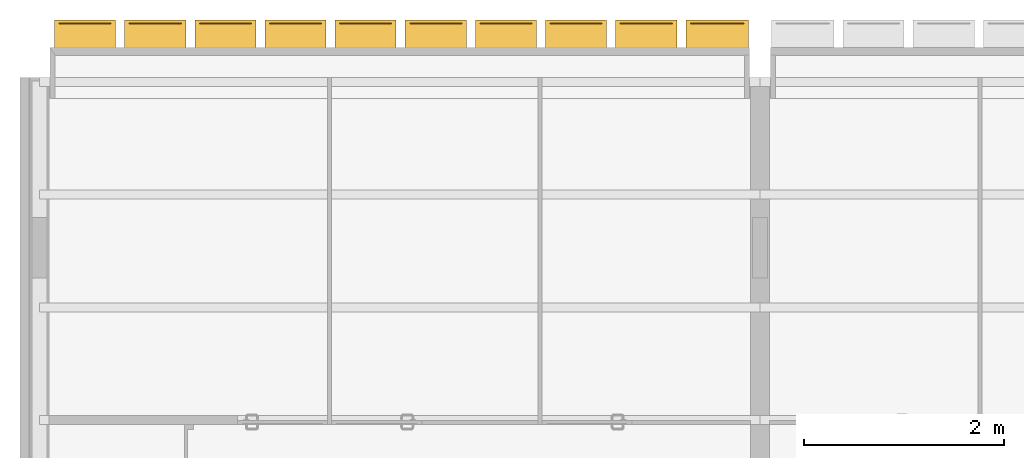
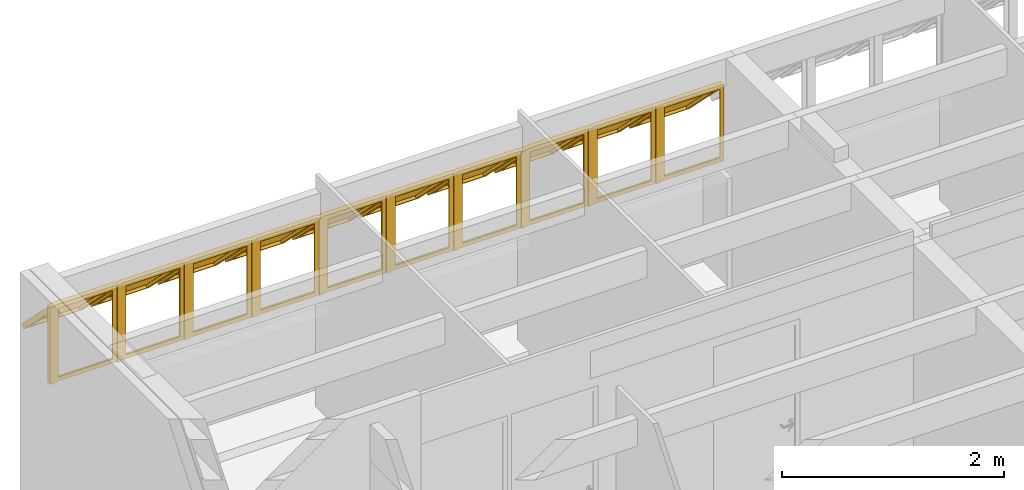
# One storey, part 21 of 22: 1 window.
"""IFC2X3 building model written with IfcOpenShell, lengths in millimetres."""

from ifc_helpers import new_model, si_unit, direction, frame, frame_2d, origin_with_axes, origin_2d_with_axis, place, context, subcontext, project, spatial, polyline, rectangle, outline, extrude, source, transform, mapped, type_object, type_shapes, element, save


model = new_model("IFC2X3")

# Units and contexts
model_context = context("Model", 3, precision=1e-05, world=origin_with_axes(), true_north=direction((0.0, 1.0)))
body_context = subcontext(model_context, "Body", "Model", "MODEL_VIEW")
ifc_project = project(units=[si_unit("LENGTHUNIT", "METRE", prefix="MILLI"), si_unit("AREAUNIT", "SQUARE_METRE"), si_unit("VOLUMEUNIT", "CUBIC_METRE"), si_unit("PLANEANGLEUNIT", "RADIAN"), si_unit("TIMEUNIT", "SECOND"), si_unit("MASSUNIT", "GRAM")], contexts=[model_context])

# Site, building, storey
site_placement = place(None, origin_with_axes())
site = spatial("IfcSite", under=ifc_project, at=site_placement, Name="Site", CompositionType="ELEMENT")
building_placement = place(site_placement, origin_with_axes())
building = spatial("IfcBuilding", under=site, at=building_placement, Name="Construção", CompositionType="COMPLEX")
storey_placement = place(building_placement, frame((0.0, 0.0, 2650.0), z_axis=(0.0, 0.0, 1.0), x_axis=(1.0, 0.0, 0.0)))
storey = spatial("IfcBuildingStorey", under=building, at=storey_placement, Name="Segundo Pavimento", CompositionType="COMPLEX", Elevation=2650.0)

# Window
window_style = type_object("IfcWindowStyle", ConstructionType="NOTDEFINED", OperationType="NOTDEFINED", ParameterTakesPrecedence=False, Sizeable=False)
shared_shape_1 = source(origin_with_axes(), body_context, "Body", "SweptSolid", [
    extrude(outline(polyline([(324.99999695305, -22.5), (-324.99999695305, -22.5), (-279.99999695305, 22.5), (279.99999695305, 22.5), (324.99999695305, -22.5)])), frame((-350.0000005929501, 22.5, -40.0), z_axis=(0.0, 0.0, 1.0), x_axis=(1.0, 0.0, 0.0)), (0.0, 0.0, 1.0), 5.0),
    extrude(outline(polyline([(-22.5, -422.499945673), (-22.5, 422.499945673), (22.5, 377.499945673), (22.5, -377.499945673), (-22.5, -422.499945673)])), frame((-652.499997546, 422.499945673, -40.0), z_axis=(0.0, 0.0, 1.0), x_axis=(1.0, 0.0, 0.0)), (0.0, 0.0, 1.0), 5.0),
    extrude(outline(polyline([(324.99999695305, 22.5), (279.99999695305, -22.5), (-279.9999969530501, -22.5), (-324.9999969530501, 22.5), (324.99999695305, 22.5)])), frame((-350.00000059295, 822.499891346, -40.0), z_axis=(0.0, 0.0, 1.0), x_axis=(1.0, 0.0, 0.0)), (0.0, 0.0, 1.0), 5.0),
    extrude(outline(polyline([(22.5, -422.499945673), (-22.5, -377.499945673), (-22.5, 377.499945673), (22.5, 422.499945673), (22.5, -422.499945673)])), frame((-47.5000036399, 422.499945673, -40.0), z_axis=(0.0, 0.0, 1.0), x_axis=(1.0, 0.0, 0.0)), (0.0, 0.0, 1.0), 5.0),
    extrude(outline(polyline([(324.99999695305, -10.0), (-324.99999695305, -10.0), (-304.99999695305, 10.0), (304.99999695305, 10.0), (324.99999695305, -10.0)])), frame((-350.0000005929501, 10.0, -35.0), z_axis=(0.0, 0.0, 1.0), x_axis=(1.0, 0.0, 0.0)), (0.0, 0.0, 1.0), 50.0),
    extrude(outline(polyline([(-10.0, -422.499945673), (-10.0, 422.499945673), (10.0, 402.499945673), (10.0, -402.499945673), (-10.0, -422.499945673)])), frame((-664.999997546, 422.499945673, -35.0), z_axis=(0.0, 0.0, 1.0), x_axis=(1.0, 0.0, 0.0)), (0.0, 0.0, 1.0), 50.0),
    extrude(outline(polyline([(324.99999695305, 10.0), (304.99999695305, -10.0), (-304.9999969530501, -10.0), (-324.9999969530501, 10.0), (324.99999695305, 10.0)])), frame((-350.00000059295, 834.999891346, -35.0), z_axis=(0.0, 0.0, 1.0), x_axis=(1.0, 0.0, 0.0)), (0.0, 0.0, 1.0), 50.0),
    extrude(outline(polyline([(10.0, -422.499945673), (-10.0, -402.499945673), (-10.0, 402.499945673), (10.0, 422.499945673), (10.0, -422.499945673)])), frame((-35.0000036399, 422.499945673, -35.0), z_axis=(0.0, 0.0, 1.0), x_axis=(1.0, 0.0, 0.0)), (0.0, 0.0, 1.0), 50.0),
    extrude(rectangle(XDim=844.999891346, YDim=19.99999787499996, at=frame_2d((0.0, 0.0), x_axis=(0.0, 1.0))), frame((-684.9999964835, 422.499945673, -10.0), z_axis=(0.0, 0.0, 1.0), x_axis=(1.0, 0.0, 0.0)), (0.0, 0.0, 1.0), 20.0),
    extrude(rectangle(XDim=844.999891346, YDim=19.99999787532, at=frame_2d((0.0, 0.0), x_axis=(0.0, 1.0))), frame((-15.00000470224, 422.499945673, -10.0), z_axis=(0.0, 0.0, 1.0), x_axis=(1.0, 0.0, 0.0)), (0.0, 0.0, 1.0), 20.0),
    extrude(outline(polyline([(-22.5, -357.4999456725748), (-22.50000000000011, 357.499945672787), (22.5, 402.4999456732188), (22.5, -402.4999456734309), (-22.5, -357.4999456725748)])), frame((-67.5000036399, 505.034111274, 264.2551019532), z_axis=(4.714640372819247e-12, 0.7071067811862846, 0.7071067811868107), x_axis=(1.0, 0.0, 0.0)), (0.0, 0.0, 1.0), 55.00000000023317),
    extrude(outline(polyline([(-22.5, -402.4999456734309), (-22.50000000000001, 402.4999456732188), (22.5, 357.499945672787), (22.5, -357.4999456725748), (-22.5, -402.4999456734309)])), frame((-632.499997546, 505.034111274, 264.2551019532), z_axis=(4.714640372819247e-12, 0.7071067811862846, 0.7071067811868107), x_axis=(1.0, 0.0, 0.0)), (0.0, 0.0, 1.0), 55.00000000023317),
    extrude(outline(polyline([(-304.9999969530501, -22.50000000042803), (-259.9999969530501, 22.50000000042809), (259.99999695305, 22.50000000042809), (304.99999695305, -22.50000000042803), (-304.9999969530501, -22.50000000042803)])), frame((-350.0000005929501, 236.333572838, 532.955640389), z_axis=(4.714640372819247e-12, 0.7071067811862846, 0.7071067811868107), x_axis=(1.0, 0.0, 0.0)), (0.0, 0.0, 1.0), 55.00000000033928),
    extrude(outline(polyline([(304.99999695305, 22.500000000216), (259.99999695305, -22.500000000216), (-259.9999969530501, -22.500000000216), (-304.9999969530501, 22.500000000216), (304.99999695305, 22.500000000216)])), frame((-350.00000059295, 773.73464971, -4.4454364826), z_axis=(4.714640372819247e-12, 0.7071067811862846, 0.7071067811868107), x_axis=(1.0, 0.0, 0.0)), (0.0, 0.0, 1.0), 55.00000000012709),
])
shared_shape_2 = source(origin_with_axes(), body_context, "Body", "SweptSolid", [
    extrude(rectangle(XDim=519.9999939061, YDim=16.00000000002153, at=origin_2d_with_axis()), frame((-350.0000005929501, 783.9876980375, 37.627416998), z_axis=(0.0, -0.7071067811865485, 0.7071067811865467), x_axis=(1.0, 0.0, 0.0)), (0.0, 0.0, 1.0), 714.9998913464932),
])
shared_shape_3 = source(origin_with_axes(), body_context, "Body", "MappedRepresentation", [
    mapped(shared_shape_1, transform((5900.0, 25844.9790225, 4005.02054151), x_axis=(-1.0, 0.0, 0.0), y_axis=(0.0, 0.0, 1.0), z_axis=(0.0, 1.0, 0.0), scale=1.0)),
    mapped(shared_shape_2, transform((5900.0, 25844.9790225, 4005.02054151), x_axis=(-1.0, 0.0, 0.0), y_axis=(0.0, 0.0, 1.0), z_axis=(0.0, 1.0, 0.0), scale=1.0)),
])
shared_shape_4 = source(origin_with_axes(), body_context, "Body", "SweptSolid", [
    extrude(outline(polyline([(332.50003730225, -22.5), (-332.50003730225, -22.5), (-287.50003730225, 22.5), (287.50003730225, 22.5), (332.50003730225, -22.5)])), frame((-357.50004190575, 22.5, -40.0), z_axis=(0.0, 0.0, 1.0), x_axis=(1.0, 0.0, 0.0)), (0.0, 0.0, 1.0), 5.0),
    extrude(outline(polyline([(-22.5, -422.499961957), (-22.5, 422.499961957), (22.5, 377.499961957), (22.5, -377.499961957), (-22.5, -422.499961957)])), frame((-667.500079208, 422.499961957, -40.0), z_axis=(0.0, 0.0, 1.0), x_axis=(1.0, 0.0, 0.0)), (0.0, 0.0, 1.0), 5.0),
    extrude(outline(polyline([(332.50003730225, 22.5), (287.50003730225, -22.5), (-287.50003730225, -22.5), (-332.50003730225, 22.5), (332.50003730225, 22.5)])), frame((-357.50004190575, 822.499923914, -40.0), z_axis=(0.0, 0.0, 1.0), x_axis=(1.0, 0.0, 0.0)), (0.0, 0.0, 1.0), 5.0),
    extrude(outline(polyline([(22.5, -422.499961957), (-22.5, -377.499961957), (-22.5, 377.499961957), (22.5, 422.499961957), (22.5, -422.499961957)])), frame((-47.5000046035, 422.499961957, -40.0), z_axis=(0.0, 0.0, 1.0), x_axis=(1.0, 0.0, 0.0)), (0.0, 0.0, 1.0), 5.0),
    extrude(outline(polyline([(332.50003730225, -10.0), (-332.50003730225, -10.0), (-312.50003730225, 10.0), (312.50003730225, 10.0), (332.50003730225, -10.0)])), frame((-357.50004190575, 10.0, -35.0), z_axis=(0.0, 0.0, 1.0), x_axis=(1.0, 0.0, 0.0)), (0.0, 0.0, 1.0), 50.0),
    extrude(outline(polyline([(-10.0, -422.499961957), (-10.0, 422.499961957), (10.0, 402.499961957), (10.0, -402.499961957), (-10.0, -422.499961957)])), frame((-680.000079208, 422.499961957, -35.0), z_axis=(0.0, 0.0, 1.0), x_axis=(1.0, 0.0, 0.0)), (0.0, 0.0, 1.0), 50.0),
    extrude(outline(polyline([(332.50003730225, 10.0), (312.50003730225, -10.0), (-312.50003730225, -10.0), (-332.50003730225, 10.0), (332.50003730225, 10.0)])), frame((-357.50004190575, 834.999923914, -35.0), z_axis=(0.0, 0.0, 1.0), x_axis=(1.0, 0.0, 0.0)), (0.0, 0.0, 1.0), 50.0),
    extrude(outline(polyline([(10.0, -422.499961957), (-10.0, -402.499961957), (-10.0, 402.499961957), (10.0, 422.499961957), (10.0, -422.499961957)])), frame((-35.0000046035, 422.499961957, -35.0), z_axis=(0.0, 0.0, 1.0), x_axis=(1.0, 0.0, 0.0)), (0.0, 0.0, 1.0), 50.0),
    extrude(rectangle(XDim=844.999923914, YDim=19.99999864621, at=frame_2d((0.0, 0.0), x_axis=(0.0, 1.0))), frame((-15.000005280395, 422.499961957, -10.0), z_axis=(0.0, 0.0, 1.0), x_axis=(1.0, 0.0, 0.0)), (0.0, 0.0, 1.0), 20.0),
    extrude(outline(polyline([(-22.50000000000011, -357.4999619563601), (-22.50000000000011, 357.4999619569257), (22.5, 402.4999619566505), (22.5, -402.4999619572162), (-22.50000000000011, -357.4999619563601)])), frame((-67.5000046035, 505.03413232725, 264.2551134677), z_axis=(4.714640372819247e-12, 0.7071067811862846, 0.7071067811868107), x_axis=(1.0, 0.0, 0.0)), (0.0, 0.0, 1.0), 54.99999999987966),
    extrude(outline(polyline([(-22.50000000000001, -402.4999619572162), (-22.50000000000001, 402.4999619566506), (22.49999999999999, 357.4999619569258), (22.5, -357.49996195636), (-22.50000000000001, -402.4999619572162)])), frame((-647.500079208, 505.0341323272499, 264.2551134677), z_axis=(4.714640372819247e-12, 0.7071067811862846, 0.7071067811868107), x_axis=(1.0, 0.0, 0.0)), (0.0, 0.0, 1.0), 54.9999999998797),
    extrude(outline(polyline([(-312.50003730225, -22.50000000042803), (-267.50003730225, 22.50000000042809), (267.50003730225, 22.50000000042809), (312.50003730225, -22.50000000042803), (-312.50003730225, -22.50000000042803)])), frame((-357.50004190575, 236.333582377, 532.955663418), z_axis=(4.714640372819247e-12, 0.7071067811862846, 0.7071067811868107), x_axis=(1.0, 0.0, 0.0)), (0.0, 0.0, 1.0), 54.99999999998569),
    extrude(outline(polyline([(312.50003730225, 22.49999999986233), (267.50003730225, -22.49999999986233), (-267.50003730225, -22.49999999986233), (-312.50003730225, 22.49999999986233), (312.50003730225, 22.49999999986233)])), frame((-357.50004190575, 773.7346822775, -4.4454364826), z_axis=(4.714640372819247e-12, 0.7071067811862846, 0.7071067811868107), x_axis=(1.0, 0.0, 0.0)), (0.0, 0.0, 1.0), 54.99999999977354),
])
shared_shape_5 = source(origin_with_axes(), body_context, "Body", "SweptSolid", [
    extrude(rectangle(XDim=535.0000746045, YDim=16.00000000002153, at=origin_2d_with_axis()), frame((-357.50004190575, 783.9877306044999, 37.627416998), z_axis=(0.0, -0.7071067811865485, 0.7071067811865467), x_axis=(1.0, 0.0, 0.0)), (0.0, 0.0, 1.0), 714.9999239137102),
])
shared_shape_6 = source(origin_with_axes(), body_context, "Body", "MappedRepresentation", [
    mapped(shared_shape_4, transform((6600.0, 25844.9790225, 4005.020541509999), x_axis=(-1.0, 0.0, 0.0), y_axis=(0.0, 0.0, 1.0), z_axis=(0.0, 1.0, 0.0), scale=1.0)),
    mapped(shared_shape_5, transform((6600.0, 25844.9790225, 4005.020541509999), x_axis=(-1.0, 0.0, 0.0), y_axis=(0.0, 0.0, 1.0), z_axis=(0.0, 1.0, 0.0), scale=1.0)),
])
shared_shape_7 = source(origin_with_axes(), body_context, "Body", "SweptSolid", [
    extrude(outline(polyline([(324.99999695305, -22.5), (-324.99999695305, -22.5), (-279.99999695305, 22.5), (279.99999695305, 22.5), (324.99999695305, -22.5)])), frame((-350.0000005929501, 22.5, -40.0), z_axis=(0.0, 0.0, 1.0), x_axis=(1.0, 0.0, 0.0)), (0.0, 0.0, 1.0), 5.0),
    extrude(outline(polyline([(-22.5, -422.499945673), (-22.5, 422.499945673), (22.5, 377.499945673), (22.5, -377.499945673), (-22.5, -422.499945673)])), frame((-652.499997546, 422.499945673, -40.0), z_axis=(0.0, 0.0, 1.0), x_axis=(1.0, 0.0, 0.0)), (0.0, 0.0, 1.0), 5.0),
    extrude(outline(polyline([(324.99999695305, 22.5), (279.99999695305, -22.5), (-279.9999969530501, -22.5), (-324.9999969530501, 22.5), (324.99999695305, 22.5)])), frame((-350.00000059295, 822.499891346, -40.0), z_axis=(0.0, 0.0, 1.0), x_axis=(1.0, 0.0, 0.0)), (0.0, 0.0, 1.0), 5.0),
    extrude(outline(polyline([(22.5, -422.499945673), (-22.5, -377.499945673), (-22.5, 377.499945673), (22.5, 422.499945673), (22.5, -422.499945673)])), frame((-47.5000036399, 422.499945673, -40.0), z_axis=(0.0, 0.0, 1.0), x_axis=(1.0, 0.0, 0.0)), (0.0, 0.0, 1.0), 5.0),
    extrude(outline(polyline([(324.99999695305, -10.0), (-324.99999695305, -10.0), (-304.99999695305, 10.0), (304.99999695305, 10.0), (324.99999695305, -10.0)])), frame((-350.0000005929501, 10.0, -35.0), z_axis=(0.0, 0.0, 1.0), x_axis=(1.0, 0.0, 0.0)), (0.0, 0.0, 1.0), 50.0),
    extrude(outline(polyline([(-10.0, -422.499945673), (-10.0, 422.499945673), (10.0, 402.499945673), (10.0, -402.499945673), (-10.0, -422.499945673)])), frame((-664.999997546, 422.499945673, -35.0), z_axis=(0.0, 0.0, 1.0), x_axis=(1.0, 0.0, 0.0)), (0.0, 0.0, 1.0), 50.0),
    extrude(outline(polyline([(324.99999695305, 10.0), (304.99999695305, -10.0), (-304.9999969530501, -10.0), (-324.9999969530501, 10.0), (324.99999695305, 10.0)])), frame((-350.00000059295, 834.999891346, -35.0), z_axis=(0.0, 0.0, 1.0), x_axis=(1.0, 0.0, 0.0)), (0.0, 0.0, 1.0), 50.0),
    extrude(outline(polyline([(10.0, -422.499945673), (-10.0, -402.499945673), (-10.0, 402.499945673), (10.0, 422.499945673), (10.0, -422.499945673)])), frame((-35.0000036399, 422.499945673, -35.0), z_axis=(0.0, 0.0, 1.0), x_axis=(1.0, 0.0, 0.0)), (0.0, 0.0, 1.0), 50.0),
    extrude(rectangle(XDim=844.999891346, YDim=19.99999787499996, at=frame_2d((0.0, 0.0), x_axis=(0.0, 1.0))), frame((-684.9999964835, 422.499945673, -10.0), z_axis=(0.0, 0.0, 1.0), x_axis=(1.0, 0.0, 0.0)), (0.0, 0.0, 1.0), 20.0),
    extrude(rectangle(XDim=844.999891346, YDim=19.99999787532, at=frame_2d((0.0, 0.0), x_axis=(0.0, 1.0))), frame((-15.00000470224, 422.499945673, -10.0), z_axis=(0.0, 0.0, 1.0), x_axis=(1.0, 0.0, 0.0)), (0.0, 0.0, 1.0), 20.0),
    extrude(outline(polyline([(-22.5, -357.4999456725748), (-22.50000000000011, 357.499945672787), (22.5, 402.4999456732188), (22.5, -402.4999456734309), (-22.5, -357.4999456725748)])), frame((-67.5000036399, 505.034111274, 264.2551019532), z_axis=(4.714640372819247e-12, 0.7071067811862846, 0.7071067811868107), x_axis=(1.0, 0.0, 0.0)), (0.0, 0.0, 1.0), 55.00000000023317),
    extrude(outline(polyline([(-22.5, -402.4999456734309), (-22.50000000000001, 402.4999456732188), (22.5, 357.499945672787), (22.5, -357.4999456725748), (-22.5, -402.4999456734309)])), frame((-632.499997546, 505.034111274, 264.2551019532), z_axis=(4.714640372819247e-12, 0.7071067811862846, 0.7071067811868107), x_axis=(1.0, 0.0, 0.0)), (0.0, 0.0, 1.0), 55.00000000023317),
    extrude(outline(polyline([(-304.9999969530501, -22.50000000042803), (-259.9999969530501, 22.50000000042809), (259.99999695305, 22.50000000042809), (304.99999695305, -22.50000000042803), (-304.9999969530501, -22.50000000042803)])), frame((-350.0000005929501, 236.333572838, 532.955640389), z_axis=(4.714640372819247e-12, 0.7071067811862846, 0.7071067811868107), x_axis=(1.0, 0.0, 0.0)), (0.0, 0.0, 1.0), 55.00000000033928),
    extrude(outline(polyline([(304.99999695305, 22.500000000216), (259.99999695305, -22.500000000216), (-259.9999969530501, -22.500000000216), (-304.9999969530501, 22.500000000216), (304.99999695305, 22.500000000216)])), frame((-350.00000059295, 773.73464971, -4.4454364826), z_axis=(4.714640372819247e-12, 0.7071067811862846, 0.7071067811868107), x_axis=(1.0, 0.0, 0.0)), (0.0, 0.0, 1.0), 55.00000000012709),
])
shared_shape_8 = source(origin_with_axes(), body_context, "Body", "SweptSolid", [
    extrude(rectangle(XDim=519.9999939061, YDim=16.00000000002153, at=origin_2d_with_axis()), frame((-350.0000005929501, 783.9876980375, 37.627416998), z_axis=(0.0, -0.7071067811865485, 0.7071067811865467), x_axis=(1.0, 0.0, 0.0)), (0.0, 0.0, 1.0), 714.9998913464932),
])
shared_shape_9 = source(origin_with_axes(), body_context, "Body", "MappedRepresentation", [
    mapped(shared_shape_7, transform((300.0, 25844.9790225, 4005.02054151), x_axis=(-1.0, 0.0, 0.0), y_axis=(0.0, 0.0, 1.0), z_axis=(0.0, 1.0, 0.0), scale=1.0)),
    mapped(shared_shape_8, transform((300.0, 25844.9790225, 4005.02054151), x_axis=(-1.0, 0.0, 0.0), y_axis=(0.0, 0.0, 1.0), z_axis=(0.0, 1.0, 0.0), scale=1.0)),
])
shared_shape_10 = source(origin_with_axes(), body_context, "Body", "MappedRepresentation", [
    mapped(shared_shape_7, transform((1000.0, 25844.9790225, 4005.02054151), x_axis=(-1.0, 0.0, 0.0), y_axis=(0.0, 0.0, 1.0), z_axis=(0.0, 1.0, 0.0), scale=1.0)),
    mapped(shared_shape_8, transform((1000.0, 25844.9790225, 4005.02054151), x_axis=(-1.0, 0.0, 0.0), y_axis=(0.0, 0.0, 1.0), z_axis=(0.0, 1.0, 0.0), scale=1.0)),
])
shared_shape_11 = source(origin_with_axes(), body_context, "Body", "SweptSolid", [
    extrude(outline(polyline([(324.99999695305, -22.5), (-324.99999695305, -22.5), (-279.99999695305, 22.5), (279.99999695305, 22.5), (324.99999695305, -22.5)])), frame((-350.0000005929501, 22.5, -40.0), z_axis=(0.0, 0.0, 1.0), x_axis=(1.0, 0.0, 0.0)), (0.0, 0.0, 1.0), 5.0),
    extrude(outline(polyline([(-22.5, -422.499945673), (-22.5, 422.499945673), (22.5, 377.499945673), (22.5, -377.499945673), (-22.5, -422.499945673)])), frame((-652.499997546, 422.499945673, -40.0), z_axis=(0.0, 0.0, 1.0), x_axis=(1.0, 0.0, 0.0)), (0.0, 0.0, 1.0), 5.0),
    extrude(outline(polyline([(324.99999695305, 22.5), (279.99999695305, -22.5), (-279.9999969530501, -22.5), (-324.9999969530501, 22.5), (324.99999695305, 22.5)])), frame((-350.00000059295, 822.499891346, -40.0), z_axis=(0.0, 0.0, 1.0), x_axis=(1.0, 0.0, 0.0)), (0.0, 0.0, 1.0), 5.0),
    extrude(outline(polyline([(22.5, -422.499945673), (-22.5, -377.499945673), (-22.5, 377.499945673), (22.5, 422.499945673), (22.5, -422.499945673)])), frame((-47.5000036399, 422.499945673, -40.0), z_axis=(0.0, 0.0, 1.0), x_axis=(1.0, 0.0, 0.0)), (0.0, 0.0, 1.0), 5.0),
    extrude(outline(polyline([(324.99999695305, -10.0), (-324.99999695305, -10.0), (-304.99999695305, 10.0), (304.99999695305, 10.0), (324.99999695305, -10.0)])), frame((-350.0000005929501, 10.0, -35.0), z_axis=(0.0, 0.0, 1.0), x_axis=(1.0, 0.0, 0.0)), (0.0, 0.0, 1.0), 50.0),
    extrude(outline(polyline([(-10.0, -422.499945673), (-10.0, 422.499945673), (10.0, 402.499945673), (10.0, -402.499945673), (-10.0, -422.499945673)])), frame((-664.999997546, 422.499945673, -35.0), z_axis=(0.0, 0.0, 1.0), x_axis=(1.0, 0.0, 0.0)), (0.0, 0.0, 1.0), 50.0),
    extrude(outline(polyline([(324.99999695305, 10.0), (304.99999695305, -10.0), (-304.9999969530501, -10.0), (-324.9999969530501, 10.0), (324.99999695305, 10.0)])), frame((-350.00000059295, 834.999891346, -35.0), z_axis=(0.0, 0.0, 1.0), x_axis=(1.0, 0.0, 0.0)), (0.0, 0.0, 1.0), 50.0),
    extrude(outline(polyline([(10.0, -422.499945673), (-10.0, -402.499945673), (-10.0, 402.499945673), (10.0, 422.499945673), (10.0, -422.499945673)])), frame((-35.0000036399, 422.499945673, -35.0), z_axis=(0.0, 0.0, 1.0), x_axis=(1.0, 0.0, 0.0)), (0.0, 0.0, 1.0), 50.0),
    extrude(rectangle(XDim=844.999891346, YDim=19.99999787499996, at=frame_2d((0.0, 0.0), x_axis=(0.0, 1.0))), frame((-684.9999964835, 422.499945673, -10.0), z_axis=(0.0, 0.0, 1.0), x_axis=(1.0, 0.0, 0.0)), (0.0, 0.0, 1.0), 20.0),
    extrude(rectangle(XDim=844.999891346, YDim=19.99999787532, at=frame_2d((0.0, 0.0), x_axis=(0.0, 1.0))), frame((-15.00000470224, 422.499945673, -10.0), z_axis=(0.0, 0.0, 1.0), x_axis=(1.0, 0.0, 0.0)), (0.0, 0.0, 1.0), 20.0),
    extrude(outline(polyline([(-22.5, -357.4999456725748), (-22.50000000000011, 357.499945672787), (22.5, 402.4999456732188), (22.5, -402.4999456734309), (-22.5, -357.4999456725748)])), frame((-67.5000036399, 505.034111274, 264.2551019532), z_axis=(4.714640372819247e-12, 0.7071067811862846, 0.7071067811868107), x_axis=(1.0, 0.0, 0.0)), (0.0, 0.0, 1.0), 55.00000000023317),
    extrude(outline(polyline([(-22.5, -402.4999456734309), (-22.50000000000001, 402.4999456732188), (22.5, 357.499945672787), (22.5, -357.4999456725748), (-22.5, -402.4999456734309)])), frame((-632.499997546, 505.034111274, 264.2551019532), z_axis=(4.714640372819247e-12, 0.7071067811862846, 0.7071067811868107), x_axis=(1.0, 0.0, 0.0)), (0.0, 0.0, 1.0), 55.00000000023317),
    extrude(outline(polyline([(-304.9999969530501, -22.50000000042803), (-259.9999969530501, 22.50000000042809), (259.99999695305, 22.50000000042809), (304.99999695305, -22.50000000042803), (-304.9999969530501, -22.50000000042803)])), frame((-350.0000005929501, 236.333572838, 532.955640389), z_axis=(4.714640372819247e-12, 0.7071067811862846, 0.7071067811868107), x_axis=(1.0, 0.0, 0.0)), (0.0, 0.0, 1.0), 55.00000000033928),
    extrude(outline(polyline([(304.99999695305, 22.500000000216), (259.99999695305, -22.500000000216), (-259.9999969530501, -22.500000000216), (-304.9999969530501, 22.500000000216), (304.99999695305, 22.500000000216)])), frame((-350.00000059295, 773.73464971, -4.4454364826), z_axis=(4.714640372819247e-12, 0.7071067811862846, 0.7071067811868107), x_axis=(1.0, 0.0, 0.0)), (0.0, 0.0, 1.0), 55.00000000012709),
])
shared_shape_12 = source(origin_with_axes(), body_context, "Body", "SweptSolid", [
    extrude(rectangle(XDim=519.9999939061, YDim=16.00000000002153, at=origin_2d_with_axis()), frame((-350.0000005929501, 783.9876980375, 37.627416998), z_axis=(0.0, -0.7071067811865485, 0.7071067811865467), x_axis=(1.0, 0.0, 0.0)), (0.0, 0.0, 1.0), 714.9998913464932),
])
shared_shape_13 = source(origin_with_axes(), body_context, "Body", "MappedRepresentation", [
    mapped(shared_shape_11, transform((3100.0, 25844.9790225, 4005.02054151), x_axis=(-1.0, 0.0, 0.0), y_axis=(0.0, 0.0, 1.0), z_axis=(0.0, 1.0, 0.0), scale=1.0)),
    mapped(shared_shape_12, transform((3100.0, 25844.9790225, 4005.02054151), x_axis=(-1.0, 0.0, 0.0), y_axis=(0.0, 0.0, 1.0), z_axis=(0.0, 1.0, 0.0), scale=1.0)),
])
shared_shape_14 = source(origin_with_axes(), body_context, "Body", "MappedRepresentation", [
    mapped(shared_shape_7, transform((3800.0, 25844.9790225, 4005.02054151), x_axis=(-1.0, 0.0, 0.0), y_axis=(0.0, 0.0, 1.0), z_axis=(0.0, 1.0, 0.0), scale=1.0)),
    mapped(shared_shape_8, transform((3800.0, 25844.9790225, 4005.02054151), x_axis=(-1.0, 0.0, 0.0), y_axis=(0.0, 0.0, 1.0), z_axis=(0.0, 1.0, 0.0), scale=1.0)),
])
shared_shape_15 = source(origin_with_axes(), body_context, "Body", "MappedRepresentation", [
    mapped(shared_shape_1, transform((5200.0, 25844.9790225, 4005.02054151), x_axis=(-1.0, 0.0, 0.0), y_axis=(0.0, 0.0, 1.0), z_axis=(0.0, 1.0, 0.0), scale=1.0)),
    mapped(shared_shape_2, transform((5200.0, 25844.9790225, 4005.02054151), x_axis=(-1.0, 0.0, 0.0), y_axis=(0.0, 0.0, 1.0), z_axis=(0.0, 1.0, 0.0), scale=1.0)),
])
shared_shape_16 = source(origin_with_axes(), body_context, "Body", "MappedRepresentation", [
    mapped(shared_shape_11, transform((1700.0, 25844.9790225, 4005.02054151), x_axis=(-1.0, 0.0, 0.0), y_axis=(0.0, 0.0, 1.0), z_axis=(0.0, 1.0, 0.0), scale=1.0)),
    mapped(shared_shape_12, transform((1700.0, 25844.9790225, 4005.02054151), x_axis=(-1.0, 0.0, 0.0), y_axis=(0.0, 0.0, 1.0), z_axis=(0.0, 1.0, 0.0), scale=1.0)),
])
shared_shape_17 = source(origin_with_axes(), body_context, "Body", "MappedRepresentation", [
    mapped(shared_shape_1, transform((4500.0, 25844.9790225, 4005.02054151), x_axis=(-1.0, 0.0, 0.0), y_axis=(0.0, 0.0, 1.0), z_axis=(0.0, 1.0, 0.0), scale=1.0)),
    mapped(shared_shape_2, transform((4500.0, 25844.9790225, 4005.02054151), x_axis=(-1.0, 0.0, 0.0), y_axis=(0.0, 0.0, 1.0), z_axis=(0.0, 1.0, 0.0), scale=1.0)),
])
shared_shape_18 = source(origin_with_axes(), body_context, "Body", "MappedRepresentation", [
    mapped(shared_shape_1, transform((2400.0, 25844.9790225, 4005.02054151), x_axis=(-1.0, 0.0, 0.0), y_axis=(0.0, 0.0, 1.0), z_axis=(0.0, 1.0, 0.0), scale=1.0)),
    mapped(shared_shape_2, transform((2400.0, 25844.9790225, 4005.02054151), x_axis=(-1.0, 0.0, 0.0), y_axis=(0.0, 0.0, 1.0), z_axis=(0.0, 1.0, 0.0), scale=1.0)),
])
shared_shape_19 = source(origin_with_axes(), body_context, "Body", "SweptSolid", [
    extrude(rectangle(XDim=844.999928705, YDim=50.0, at=frame_2d((0.0, 0.0), x_axis=(0.0, 1.0))), frame((3490.000079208, 422.4999643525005, -637.7564389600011), z_axis=(0.0, 0.0, 1.0), x_axis=(1.0, 0.0, 0.0)), (0.0, 0.0, 1.0), 50.0),
])
shared_shape_20 = source(origin_with_axes(), body_context, "Body", "SweptSolid", [
    extrude(rectangle(XDim=844.999928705, YDim=50.0, at=frame_2d((0.0, 0.0), x_axis=(0.0, 1.0))), frame((2790.000079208, 422.4999643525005, -637.7564389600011), z_axis=(0.0, 0.0, 1.0), x_axis=(1.0, 0.0, 0.0)), (0.0, 0.0, 1.0), 50.0),
])
shared_shape_21 = source(origin_with_axes(), body_context, "Body", "SweptSolid", [
    extrude(rectangle(XDim=844.999928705, YDim=50.0, at=frame_2d((0.0, 0.0), x_axis=(0.0, 1.0))), frame((2090.000079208, 422.4999643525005, -637.7564389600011), z_axis=(0.0, 0.0, 1.0), x_axis=(1.0, 0.0, 0.0)), (0.0, 0.0, 1.0), 50.0),
])
shared_shape_22 = source(origin_with_axes(), body_context, "Body", "SweptSolid", [
    extrude(rectangle(XDim=844.999928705, YDim=50.0, at=frame_2d((0.0, 0.0), x_axis=(0.0, 1.0))), frame((4890.000079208, 422.4999643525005, -637.7564389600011), z_axis=(0.0, 0.0, 1.0), x_axis=(1.0, 0.0, 0.0)), (0.0, 0.0, 1.0), 50.0),
])
shared_shape_23 = source(origin_with_axes(), body_context, "Body", "SweptSolid", [
    extrude(rectangle(XDim=844.999928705, YDim=50.0, at=frame_2d((0.0, 0.0), x_axis=(0.0, 1.0))), frame((1390.000079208, 422.4999643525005, -637.7564389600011), z_axis=(0.0, 0.0, 1.0), x_axis=(1.0, 0.0, 0.0)), (0.0, 0.0, 1.0), 50.0),
])
shared_shape_24 = source(origin_with_axes(), body_context, "Body", "SweptSolid", [
    extrude(rectangle(XDim=844.999928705, YDim=50.0, at=frame_2d((0.0, 0.0), x_axis=(0.0, 1.0))), frame((690.000079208, 422.4999643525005, -637.7564389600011), z_axis=(0.0, 0.0, 1.0), x_axis=(1.0, 0.0, 0.0)), (0.0, 0.0, 1.0), 50.0),
])
shared_shape_25 = source(origin_with_axes(), body_context, "Body", "SweptSolid", [
    extrude(rectangle(XDim=844.999928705, YDim=50.0, at=frame_2d((0.0, 0.0), x_axis=(0.0, 1.0))), frame((6990.000079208, 422.4999643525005, -637.7564389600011), z_axis=(0.0, 0.0, 1.0), x_axis=(1.0, 0.0, 0.0)), (0.0, 0.0, 1.0), 50.0),
])
shared_shape_26 = source(origin_with_axes(), body_context, "Body", "SweptSolid", [
    extrude(rectangle(XDim=844.999928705, YDim=50.0, at=frame_2d((0.0, 0.0), x_axis=(0.0, 1.0))), frame((4190.000079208, 422.4999643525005, -637.7564389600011), z_axis=(0.0, 0.0, 1.0), x_axis=(1.0, 0.0, 0.0)), (0.0, 0.0, 1.0), 50.0),
])
shared_shape_27 = source(origin_with_axes(), body_context, "Body", "SweptSolid", [
    extrude(rectangle(XDim=844.999928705, YDim=50.0, at=frame_2d((0.0, 0.0), x_axis=(0.0, 1.0))), frame((5590.000079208, 422.4999643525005, -637.7564389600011), z_axis=(0.0, 0.0, 1.0), x_axis=(1.0, 0.0, 0.0)), (0.0, 0.0, 1.0), 50.0),
])
shared_shape_28 = source(origin_with_axes(), body_context, "Body", "SweptSolid", [
    extrude(rectangle(XDim=844.999928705, YDim=50.0, at=frame_2d((0.0, 0.0), x_axis=(0.0, 1.0))), frame((6290.000079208, 422.4999643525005, -637.7564389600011), z_axis=(0.0, 0.0, 1.0), x_axis=(1.0, 0.0, 0.0)), (0.0, 0.0, 1.0), 50.0),
])
shared_shape_29 = source(origin_with_axes(), body_context, "Body", "MappedRepresentation", [
    mapped(shared_shape_3, transform((7290.000079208, -4005.020541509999, -26432.73546146), x_axis=(-1.0, 0.0, 0.0), y_axis=(0.0, 0.0, 1.0), z_axis=(0.0, 1.0, 0.0), scale=1.0)),
    mapped(shared_shape_6, transform((7290.000079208, -4005.020541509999, -26432.73546146), x_axis=(-1.0, 0.0, 0.0), y_axis=(0.0, 0.0, 1.0), z_axis=(0.0, 1.0, 0.0), scale=1.0)),
    mapped(shared_shape_9, transform((7290.000079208, -4005.020541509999, -26432.73546146), x_axis=(-1.0, 0.0, 0.0), y_axis=(0.0, 0.0, 1.0), z_axis=(0.0, 1.0, 0.0), scale=1.0)),
    mapped(shared_shape_10, transform((7290.000079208, -4005.020541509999, -26432.73546146), x_axis=(-1.0, 0.0, 0.0), y_axis=(0.0, 0.0, 1.0), z_axis=(0.0, 1.0, 0.0), scale=1.0)),
    mapped(shared_shape_13, transform((7290.000079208, -4005.020541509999, -26432.73546146), x_axis=(-1.0, 0.0, 0.0), y_axis=(0.0, 0.0, 1.0), z_axis=(0.0, 1.0, 0.0), scale=1.0)),
    mapped(shared_shape_14, transform((7290.000079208, -4005.020541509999, -26432.73546146), x_axis=(-1.0, 0.0, 0.0), y_axis=(0.0, 0.0, 1.0), z_axis=(0.0, 1.0, 0.0), scale=1.0)),
    mapped(shared_shape_15, transform((7290.000079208, -4005.020541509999, -26432.73546146), x_axis=(-1.0, 0.0, 0.0), y_axis=(0.0, 0.0, 1.0), z_axis=(0.0, 1.0, 0.0), scale=1.0)),
    mapped(shared_shape_16, transform((7290.000079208, -4005.020541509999, -26432.73546146), x_axis=(-1.0, 0.0, 0.0), y_axis=(0.0, 0.0, 1.0), z_axis=(0.0, 1.0, 0.0), scale=1.0)),
    mapped(shared_shape_17, transform((7290.000079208, -4005.020541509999, -26432.73546146), x_axis=(-1.0, 0.0, 0.0), y_axis=(0.0, 0.0, 1.0), z_axis=(0.0, 1.0, 0.0), scale=1.0)),
    mapped(shared_shape_18, transform((7290.000079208, -4005.020541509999, -26432.73546146), x_axis=(-1.0, 0.0, 0.0), y_axis=(0.0, 0.0, 1.0), z_axis=(0.0, 1.0, 0.0), scale=1.0)),
    mapped(shared_shape_19, transform((0.0, 0.0, 0.0))),
    mapped(shared_shape_20, transform((0.0, 0.0, 0.0))),
    mapped(shared_shape_21, transform((0.0, 0.0, 0.0))),
    mapped(shared_shape_22, transform((0.0, 0.0, 0.0))),
    mapped(shared_shape_23, transform((0.0, 0.0, 0.0))),
    mapped(shared_shape_24, transform((0.0, 0.0, 0.0))),
    mapped(shared_shape_25, transform((0.0, 0.0, 0.0))),
    mapped(shared_shape_26, transform((0.0, 0.0, 0.0))),
    mapped(shared_shape_27, transform((0.0, 0.0, 0.0))),
    mapped(shared_shape_28, transform((0.0, 0.0, 0.0))),
])
type_shapes(window_style, [shared_shape_29])
window_placement = place(storey_placement, frame((7290.000079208, 26432.73546146, 1355.020541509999), z_axis=(0.0, 0.0, 1.0), x_axis=(-1.0, 0.0, 0.0)))
element("IfcWindow", 1, at=window_placement, inside=storey, type_object=window_style, Name="APTO7-JANELA-001", context=body_context, shape_type="MappedRepresentation", body=[
    mapped(shared_shape_29, transform((0.0, 0.0, 0.0), x_axis=(1.0, 0.0, 0.0), y_axis=(0.0, 0.0, 1.0), z_axis=(0.0, -1.0, 0.0), scale=1.0)),
])

save(model, "model.ifc")
